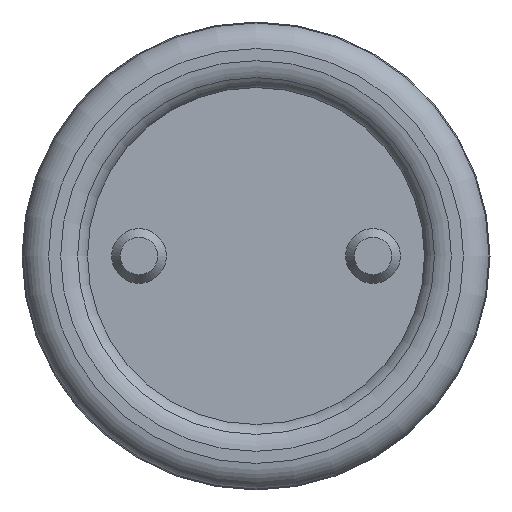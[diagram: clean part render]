
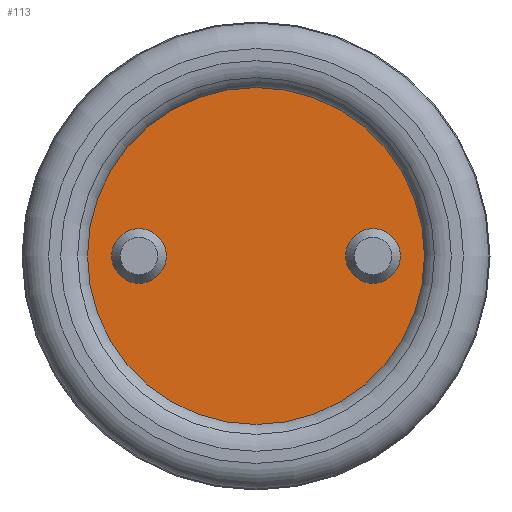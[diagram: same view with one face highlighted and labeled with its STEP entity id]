
A CAD part, front view. The second image highlights one B-rep face of the part: STEP entity #113.
In plain terms, the highlighted planar face has unit normal (0, -1, 0).
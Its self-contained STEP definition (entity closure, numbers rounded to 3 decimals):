
#113=ADVANCED_FACE('3:4026',(#163,#164,#165),#166,.T.);
#163=FACE_BOUND('',#227,.T.);
#164=FACE_BOUND('',#228,.T.);
#165=FACE_OUTER_BOUND('',#229,.T.);
#166=PLANE('',#230);
#227=EDGE_LOOP('',(#318));
#228=EDGE_LOOP('',(#319));
#229=EDGE_LOOP('',(#320));
#230=AXIS2_PLACEMENT_3D('',#321,#322,#323);
#318=ORIENTED_EDGE('',*,*,#360,.T.);
#319=ORIENTED_EDGE('',*,*,#363,.T.);
#320=ORIENTED_EDGE('',*,*,#374,.T.);
#321=CARTESIAN_POINT('',(0.,0.3,0.0));
#322=DIRECTION('',(0.,-1.0,0.0));
#323=DIRECTION('',(-1.0,0.,0.0));
#360=EDGE_CURVE('1:6891',#386,#386,#387,.T.);
#363=EDGE_CURVE('1:6919',#392,#392,#393,.T.);
#374=EDGE_CURVE('3:10655',#414,#414,#415,.T.);
#386=VERTEX_POINT('',#427);
#387=CIRCLE('',#428,0.585);
#392=VERTEX_POINT('',#433);
#393=CIRCLE('',#434,0.585);
#414=VERTEX_POINT('NONE',#455);
#415=CIRCLE('',#456,3.6);
#427=CARTESIAN_POINT('',(3.085,0.3,0.0));
#428=AXIS2_PLACEMENT_3D('',#471,#472,#473);
#433=CARTESIAN_POINT('',(-3.085,0.3,0.0));
#434=AXIS2_PLACEMENT_3D('',#480,#481,#482);
#455=CARTESIAN_POINT('',(3.6,0.3,0.0));
#456=AXIS2_PLACEMENT_3D('',#513,#514,#515);
#471=CARTESIAN_POINT('',(2.5,0.3,0.0));
#472=DIRECTION('',(0.,1.0,0.0));
#473=DIRECTION('',(0.0,-0.0,-1.0));
#480=CARTESIAN_POINT('',(-2.5,0.3,0.0));
#481=DIRECTION('',(0.,1.0,0.0));
#482=DIRECTION('',(0.0,-0.0,-1.0));
#513=CARTESIAN_POINT('',(0.,0.3,0.0));
#514=DIRECTION('',(0.,-1.0,0.0));
#515=DIRECTION('',(1.0,0.,0.0));
